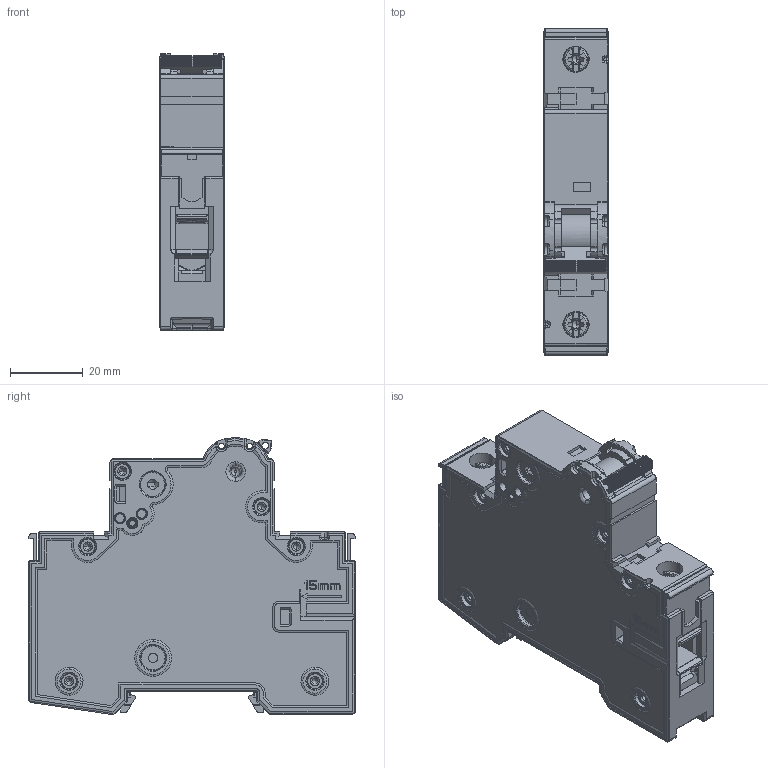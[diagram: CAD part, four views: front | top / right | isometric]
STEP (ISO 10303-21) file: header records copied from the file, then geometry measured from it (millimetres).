
FILE_DESCRIPTION (( 'STEP AP214' ), '1' );
FILE_NAME ('LTE-1.step', '2018-09-05T10:29:20', ( '' ), ( '' ), 'SwSTEP 2.0', 'SolidWorks 2015', '' );
FILE_SCHEMA (( 'AUTOMOTIVE_DESIGN' ));
Length unit declared in the file: millimetre
Products named in the file (1): LTE-1
Bounding box: 17.6 x 89.8 x 76 mm (x, y, z)
Volume: 83624.9 mm3; surface area: 23289.3 mm2
Topology: 3 solids, 3 shells, 1691 faces, 4871 edges, 3213 vertices
Faces by surface type: plane 951, cylinder 380, cone 171, bspline 167, torus 22
Entity records: 85322 total; most frequent: CARTESIAN_POINT 25975, ORIENTED_EDGE 9676, DIRECTION 6705, EDGE_CURVE 4838, VERTEX_POINT 3213, LINE 2735, VECTOR 2735, AXIS2_PLACEMENT_3D 1985
